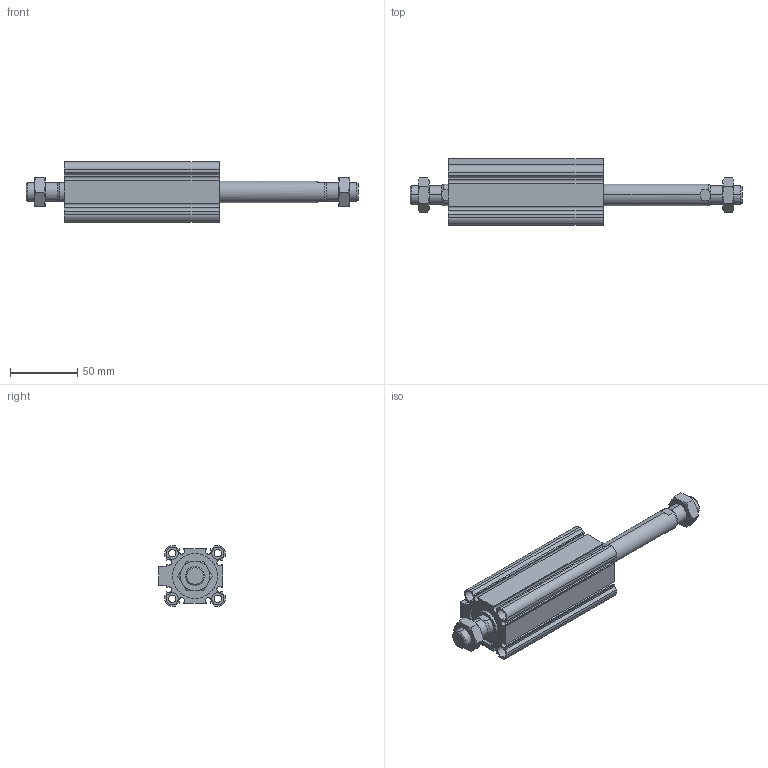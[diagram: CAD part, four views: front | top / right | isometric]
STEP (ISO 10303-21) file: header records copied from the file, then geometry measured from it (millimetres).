
FILE_DESCRIPTION (( 'STEP AP203' ), '1' );
FILE_NAME ('CCMB32-75M-P.STEP', '2020-08-10T11:36:19', ( '' ), ( '' ), 'SwSTEP 2.0', 'SolidWorks 2019', '' );
FILE_SCHEMA (( 'CONFIG_CONTROL_DESIGN' ));
Length unit declared in the file: millimetre
Products named in the file (1): CCMB32-75M-P
Bounding box: 247.5 x 49.5 x 45 mm (x, y, z)
Volume: 171501.8 mm3; surface area: 71094.1 mm2
Topology: 4 solids, 4 shells, 216 faces, 522 edges, 332 vertices
Faces by surface type: plane 94, cylinder 78, cone 44
Entity records: 7009 total; most frequent: CARTESIAN_POINT 1819, DIRECTION 1088, ORIENTED_EDGE 1044, EDGE_CURVE 522, AXIS2_PLACEMENT_3D 413, VERTEX_POINT 332, LINE 262, VECTOR 262
